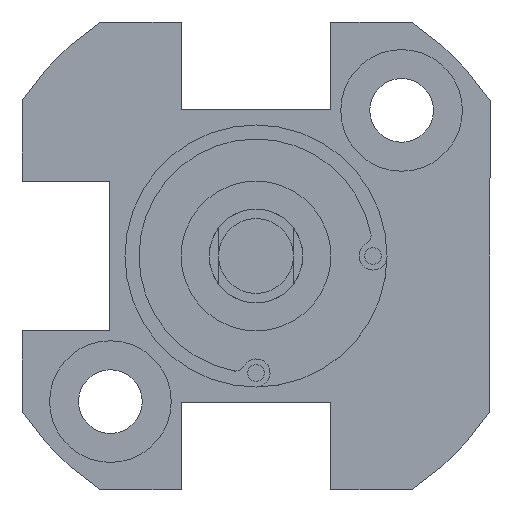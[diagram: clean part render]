
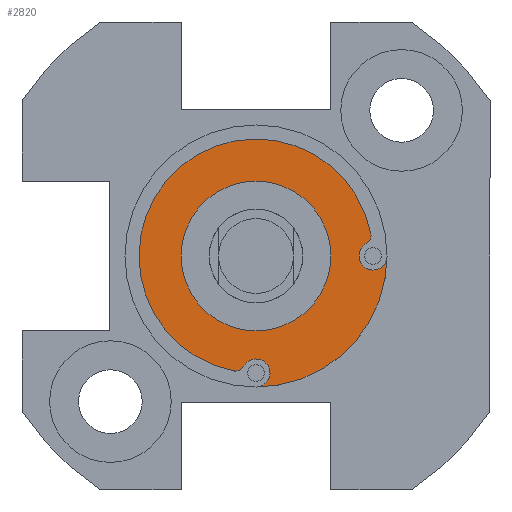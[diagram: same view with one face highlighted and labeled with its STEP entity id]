
A CAD part, front view. The second image highlights one B-rep face of the part: STEP entity #2820.
In plain terms, the highlighted planar face has unit normal (0, -1, 0).
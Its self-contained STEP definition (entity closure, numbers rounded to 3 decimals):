
#30 = VERTEX_POINT ( 'NONE', #2561 ) ;
#60 = DIRECTION ( 'NONE',  ( 0., 1., 0. ) ) ;
#67 = EDGE_LOOP ( 'NONE', ( #2092, #460, #594, #2723, #2631, #2078, #3255, #205 ) ) ;
#91 = FACE_BOUND ( 'NONE', #2552, .T. ) ;
#119 = CARTESIAN_POINT ( 'NONE',  ( 7., -35., 0. ) ) ;
#201 = DIRECTION ( 'NONE',  ( 0., 0., 1. ) ) ;
#205 = ORIENTED_EDGE ( 'NONE', *, *, #253, .F. ) ;
#214 = AXIS2_PLACEMENT_3D ( 'NONE', #2867, #840, #1341 ) ;
#248 = DIRECTION ( 'NONE',  ( 0., 0., 1. ) ) ;
#253 = EDGE_CURVE ( 'NONE', #453, #539, #2826, .T. ) ;
#264 = PLANE ( 'NONE',  #1825 ) ;
#320 = EDGE_CURVE ( 'NONE', #498, #415, #862, .T. ) ;
#326 = DIRECTION ( 'NONE',  ( 0., -1., 0. ) ) ;
#350 = EDGE_CURVE ( 'NONE', #1181, #2652, #605, .T. ) ;
#415 = VERTEX_POINT ( 'NONE', #3141 ) ;
#453 = VERTEX_POINT ( 'NONE', #119 ) ;
#460 = ORIENTED_EDGE ( 'NONE', *, *, #515, .T. ) ;
#498 = VERTEX_POINT ( 'NONE', #3171 ) ;
#515 = EDGE_CURVE ( 'NONE', #30, #766, #2247, .T. ) ;
#539 = VERTEX_POINT ( 'NONE', #1975 ) ;
#551 = DIRECTION ( 'NONE',  ( 0., 0., -1. ) ) ;
#563 = CIRCLE ( 'NONE', #2257, 0.75 ) ;
#580 = CARTESIAN_POINT ( 'NONE',  ( 6.25, -35., 0. ) ) ;
#594 = ORIENTED_EDGE ( 'NONE', *, *, #1728, .T. ) ;
#605 = CIRCLE ( 'NONE', #778, 0.5 ) ;
#654 = DIRECTION ( 'NONE',  ( 0., 0., 1. ) ) ;
#662 = DIRECTION ( 'NONE',  ( 0., 0., 1. ) ) ;
#766 = VERTEX_POINT ( 'NONE', #1027 ) ;
#778 = AXIS2_PLACEMENT_3D ( 'NONE', #2912, #326, #551 ) ;
#840 = DIRECTION ( 'NONE',  ( 0., 1., 0. ) ) ;
#862 = CIRCLE ( 'NONE', #214, 4. ) ;
#923 = CIRCLE ( 'NONE', #3269, 0.5 ) ;
#1014 = EDGE_CURVE ( 'NONE', #1181, #2470, #1737, .T. ) ;
#1027 = CARTESIAN_POINT ( 'NONE',  ( 5.887, -35., 0.656 ) ) ;
#1063 = CARTESIAN_POINT ( 'NONE',  ( 0., -35., 0. ) ) ;
#1154 = DIRECTION ( 'NONE',  ( 0., 0., -1. ) ) ;
#1181 = VERTEX_POINT ( 'NONE', #2095 ) ;
#1196 = EDGE_CURVE ( 'NONE', #453, #30, #563, .T. ) ;
#1238 = CARTESIAN_POINT ( 'NONE',  ( -0.656, -35., -5.887 ) ) ;
#1289 = DIRECTION ( 'NONE',  ( 0., 0., 1. ) ) ;
#1292 = CARTESIAN_POINT ( 'NONE',  ( 6.136, -35., 1.189 ) ) ;
#1316 = DIRECTION ( 'NONE',  ( 0., 0., -1. ) ) ;
#1331 = DIRECTION ( 'NONE',  ( 0., 1., 0. ) ) ;
#1341 = DIRECTION ( 'NONE',  ( 0., 0., 1. ) ) ;
#1379 = DIRECTION ( 'NONE',  ( 0., -1., 0. ) ) ;
#1430 = CARTESIAN_POINT ( 'NONE',  ( 0., -35., 0. ) ) ;
#1483 = CARTESIAN_POINT ( 'NONE',  ( 0., -35., 0. ) ) ;
#1487 = DIRECTION ( 'NONE',  ( 0., -1., 0. ) ) ;
#1584 = ORIENTED_EDGE ( 'NONE', *, *, #2116, .T. ) ;
#1630 = ORIENTED_EDGE ( 'NONE', *, *, #320, .T. ) ;
#1706 = EDGE_CURVE ( 'NONE', #1957, #539, #2516, .T. ) ;
#1714 = CARTESIAN_POINT ( 'NONE',  ( 0., -35., 0. ) ) ;
#1728 = EDGE_CURVE ( 'NONE', #766, #2470, #3127, .T. ) ;
#1737 = CIRCLE ( 'NONE', #2637, 6.25 ) ;
#1825 = AXIS2_PLACEMENT_3D ( 'NONE', #1714, #1487, #1289 ) ;
#1887 = CARTESIAN_POINT ( 'NONE',  ( -1.094, -35., -5.645 ) ) ;
#1927 = CARTESIAN_POINT ( 'NONE',  ( 0., -35., -6.25 ) ) ;
#1957 = VERTEX_POINT ( 'NONE', #1238 ) ;
#1969 = DIRECTION ( 'NONE',  ( 0., 1., 0. ) ) ;
#1975 = CARTESIAN_POINT ( 'NONE',  ( 0., -35., -7. ) ) ;
#2010 = DIRECTION ( 'NONE',  ( 0., 0., 1. ) ) ;
#2078 = ORIENTED_EDGE ( 'NONE', *, *, #2290, .T. ) ;
#2092 = ORIENTED_EDGE ( 'NONE', *, *, #1196, .T. ) ;
#2095 = CARTESIAN_POINT ( 'NONE',  ( -1.189, -35., -6.136 ) ) ;
#2116 = EDGE_CURVE ( 'NONE', #415, #498, #2811, .T. ) ;
#2137 = DIRECTION ( 'NONE',  ( 0., 0., 1. ) ) ;
#2214 = AXIS2_PLACEMENT_3D ( 'NONE', #2468, #1379, #1154 ) ;
#2215 = DIRECTION ( 'NONE',  ( 0., 1., 0. ) ) ;
#2225 = FACE_OUTER_BOUND ( 'NONE', #67, .T. ) ;
#2239 = AXIS2_PLACEMENT_3D ( 'NONE', #2999, #1969, #201 ) ;
#2247 = CIRCLE ( 'NONE', #2239, 0.75 ) ;
#2257 = AXIS2_PLACEMENT_3D ( 'NONE', #580, #60, #2137 ) ;
#2290 = EDGE_CURVE ( 'NONE', #2652, #1957, #923, .T. ) ;
#2296 = DIRECTION ( 'NONE',  ( 0., 1., 0. ) ) ;
#2409 = CARTESIAN_POINT ( 'NONE',  ( -1.094, -35., -6.145 ) ) ;
#2468 = CARTESIAN_POINT ( 'NONE',  ( 5.645, -35., 1.094 ) ) ;
#2470 = VERTEX_POINT ( 'NONE', #1292 ) ;
#2506 = AXIS2_PLACEMENT_3D ( 'NONE', #1430, #2215, #662 ) ;
#2516 = CIRCLE ( 'NONE', #3210, 0.75 ) ;
#2552 = EDGE_LOOP ( 'NONE', ( #1584, #1630 ) ) ;
#2561 = CARTESIAN_POINT ( 'NONE',  ( 6.25, -35., -0.75 ) ) ;
#2631 = ORIENTED_EDGE ( 'NONE', *, *, #350, .T. ) ;
#2637 = AXIS2_PLACEMENT_3D ( 'NONE', #1483, #2296, #2010 ) ;
#2652 = VERTEX_POINT ( 'NONE', #2409 ) ;
#2723 = ORIENTED_EDGE ( 'NONE', *, *, #1014, .F. ) ;
#2811 = CIRCLE ( 'NONE', #2506, 4. ) ;
#2820 = ADVANCED_FACE ( 'NONE', ( #2225, #91 ), #264, .T. ) ;
#2826 = CIRCLE ( 'NONE', #2941, 7. ) ;
#2844 = DIRECTION ( 'NONE',  ( 0., -1., 0. ) ) ;
#2867 = CARTESIAN_POINT ( 'NONE',  ( 0., -35., 0. ) ) ;
#2912 = CARTESIAN_POINT ( 'NONE',  ( -1.094, -35., -5.645 ) ) ;
#2916 = DIRECTION ( 'NONE',  ( 0., 1., 0. ) ) ;
#2941 = AXIS2_PLACEMENT_3D ( 'NONE', #1063, #1331, #248 ) ;
#2999 = CARTESIAN_POINT ( 'NONE',  ( 6.25, -35., 0. ) ) ;
#3127 = CIRCLE ( 'NONE', #2214, 0.5 ) ;
#3141 = CARTESIAN_POINT ( 'NONE',  ( 0., -35., -4. ) ) ;
#3171 = CARTESIAN_POINT ( 'NONE',  ( 0., -35., 4. ) ) ;
#3210 = AXIS2_PLACEMENT_3D ( 'NONE', #1927, #2916, #654 ) ;
#3255 = ORIENTED_EDGE ( 'NONE', *, *, #1706, .T. ) ;
#3269 = AXIS2_PLACEMENT_3D ( 'NONE', #1887, #2844, #1316 ) ;
